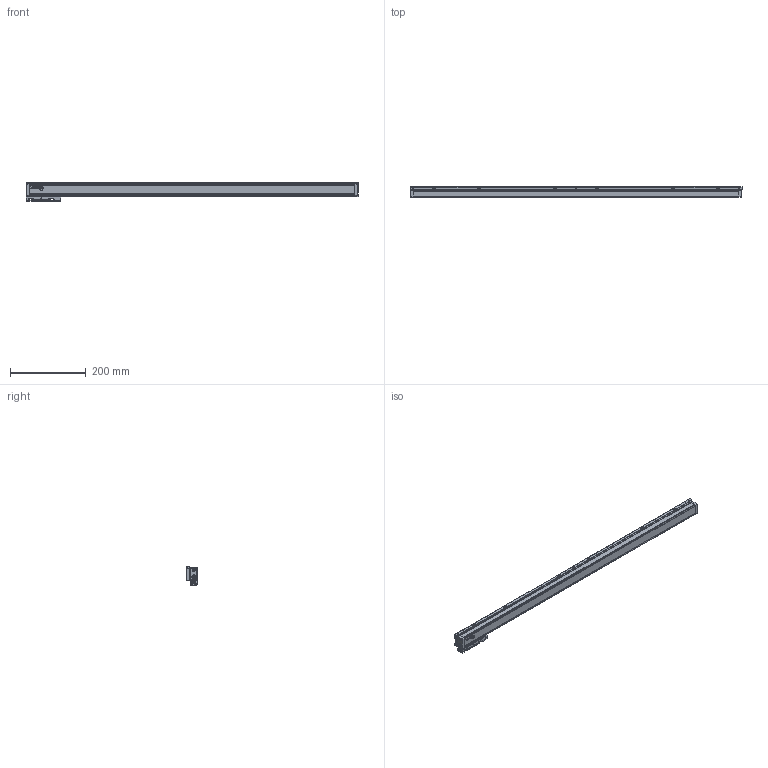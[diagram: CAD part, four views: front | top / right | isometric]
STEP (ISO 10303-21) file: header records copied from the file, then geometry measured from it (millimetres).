
FILE_DESCRIPTION(('Creo Elements/Direct Modeling STEP Export'),'2;1');
FILE_NAME('REGLA_SV3-770-B.stp','2020-10-30T13:08:51',(''),(''),'Creo Elements/Direct Modeling STEP processor for AP214 (Solid Model)','Creo Elements/Direct Modeling 19.0G 27-Nov-2017 (C) Parametric Technology GmbH','');
FILE_SCHEMA(('AUTOMOTIVE_DESIGN { 1 0 10303 214 1 1 1 1 }'));
Length unit declared in the file: millimetre
Products named in the file (4): PERFIL_SOPORTE_MECANIZADO_REGLA_SV3-770; CABEZA_RANURADA_REGLA_S3; PERFIL_REGLA_SV3-770; REGLA_SV3-770
Assembly tree (3 placements, depth 2):
  REGLA_SV3-770
    PERFIL_REGLA_SV3-770
    CABEZA_RANURADA_REGLA_S3
    PERFIL_SOPORTE_MECANIZADO_REGLA_SV3-770
Bounding box: 875 x 28.3 x 48.1 mm (x, y, z)
Volume: 700404.9 mm3; surface area: 229597.9 mm2
Topology: 3 solids, 26 shells, 2756 faces, 8593 edges, 5943 vertices
Faces by surface type: plane 1674, cylinder 795, cone 222, bspline 33, torus 32
Entity records: 110207 total; most frequent: CARTESIAN_POINT 22842, ORIENTED_EDGE 17142, DIRECTION 13950, EDGE_CURVE 8569, VERTEX_POINT 5943, VECTOR 5770, LINE 5770, AXIS2_PLACEMENT_3D 4090
